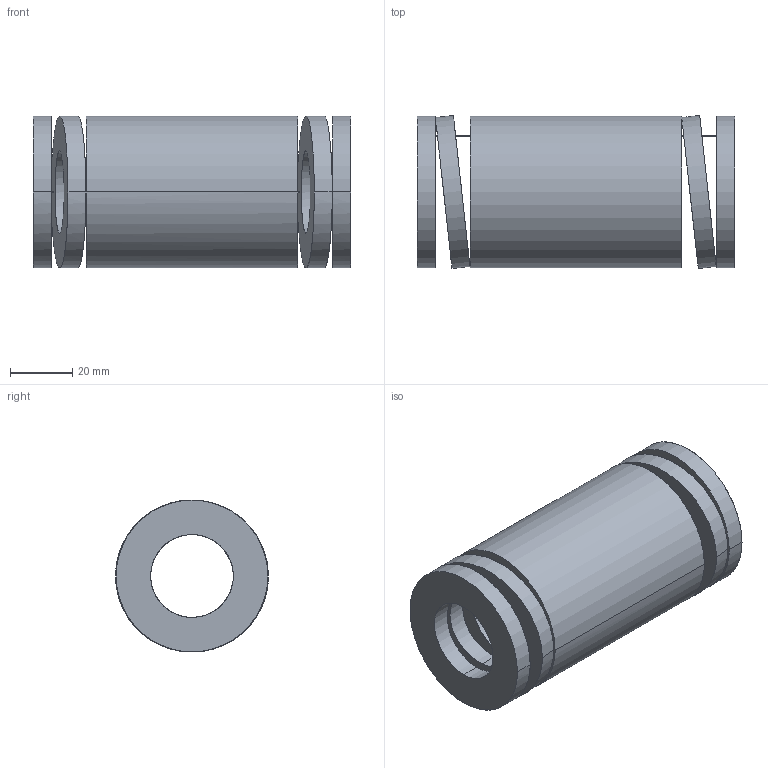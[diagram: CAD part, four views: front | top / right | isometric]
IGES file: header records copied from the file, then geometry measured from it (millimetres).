
Start section: START RECORD GO HERE.
Global section: file name: 392-B50-102.igs; native system: DASSAULT SYSTEMES CATIA V5 R20 - www.3ds.com; preprocessor: CATIA Version 5 Release 20 ; author: Utente; organization: NB04-ASUS; date: 20210813.133039; units: millimetre
Bounding box: 102 x 49.14 x 48.8 mm (x, y, z)
Surface area: 34701.4 mm2 (no closed solid volume)
Topology: 0 solids, 0 shells, 38 faces, 184 edges, 184 vertices
Faces by surface type: revolution 28, plane 10
